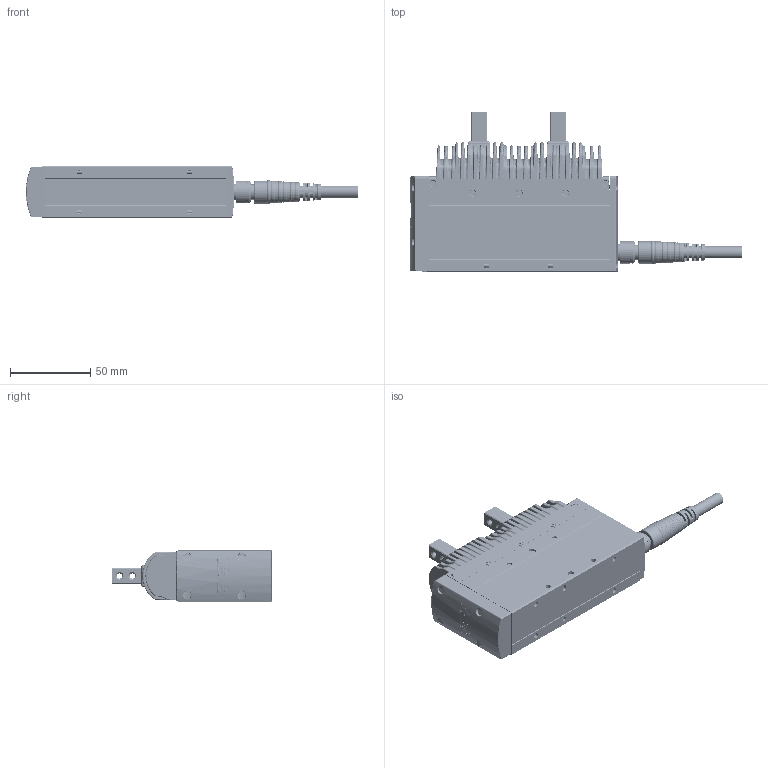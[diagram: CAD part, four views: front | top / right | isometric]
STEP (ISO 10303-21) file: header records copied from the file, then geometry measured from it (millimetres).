
FILE_DESCRIPTION(/* description */ ('STEP AP203'),/* implementation_level */ '2;1');
FILE_NAME(/* name */ 'D:\2025.02.25 帶電匯整給泊舟\3. CHS2系列\4.3D組立\CHS2C-S40-180.stp',/* time_stamp */ '2025-02-25T18:25:01+08:00',/* author */ ('T10033'),/* organization */ (''),/* preprocessor_version */ 'ST-DEVELOPER v18.1',/* originating_system */ 'Autodesk Inventor 2020',/* authorisation */ '');
FILE_SCHEMA (('CONFIG_CONTROL_DESIGN'));
Products named in the file (6): CHS2C-S40; 12005-000077; 22149-000009-02; 慶陞M12金屬頭; M12-14PIN 線端180度接頭-05中繼線; 26TE3Y6DE4R5_Shrinkwrap_1
Assembly tree (6 placements, depth 2):
  CHS2C-S40
    12005-000077  x2
    22149-000009-02
    慶陞M12金屬頭
    M12-14PIN 線端180度接頭-05中繼線
    26TE3Y6DE4R5_Shrinkwrap_1
Bounding box: 207.32 x 100.5 x 33 mm (x, y, z)
Volume: 254312.9 mm3; surface area: 85327.8 mm2
Topology: 23 solids, 23 shells, 5149 faces, 13489 edges, 8429 vertices
Faces by surface type: plane 1659, bspline 1464, cylinder 1396, cone 408, torus 184, sphere 38
Full cylindrical faces by diameter (mm): 0.6 x14, 0.65 x14, 0.8 x2, 1 x14, 2 x33, 2.2 x14, 2.5 x42, 3 x5, 3.2 x8, 3.3 x16, 3.8 x9, 4 x6, 4.5 x2, 7.5 x1, 8 x1, 8.9 x1, 9.5 x2, 9.6 x1, 10.5 x2, 11 x1, 11.2 x5, 12 x1, 13 x1, 13.8 x1, 14 x2, 16.482 x1
Entity records: 233634 total; most frequent: CARTESIAN_POINT 112348, ORIENTED_EDGE 26352, DIRECTION 24034, EDGE_CURVE 13176, AXIS2_PLACEMENT_3D 9575, VERTEX_POINT 8289, EDGE_LOOP 5393, FACE_OUTER_BOUND 5074
